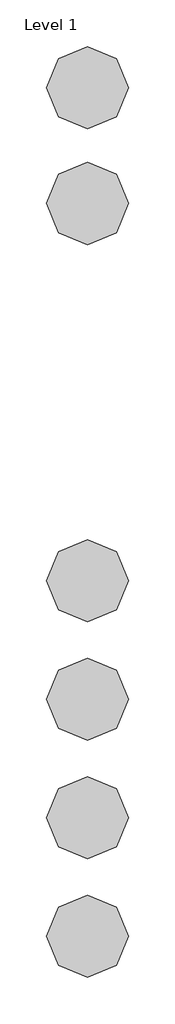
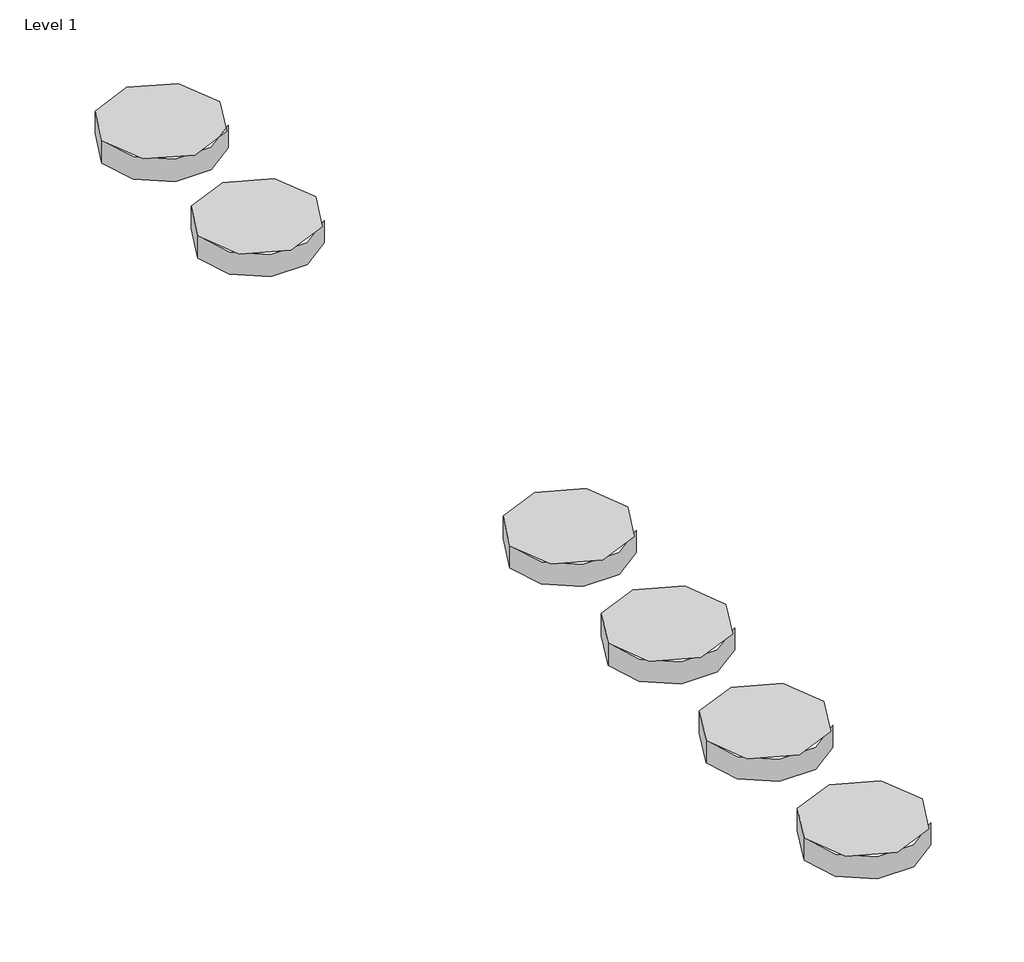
# One storey, incomplete: 6 proxies.
"""IFC4 building model written with IfcOpenShell, lengths in millimetres."""

from ifc_helpers import new_model, si_unit, origin, place, context, project, spatial, transform, mapped, element, save
from components import materialmodel_materialmodel_58669afb

model = new_model("IFC4")

# Units and contexts
model_context = context("Model", 3, world=origin())
ifc_project = project(units=[si_unit("LENGTHUNIT", "METRE", prefix="MILLI")], contexts=[model_context])

# Site, building, storey
site = spatial("IfcSite", under=ifc_project)
building = spatial("IfcBuilding", under=site)
storey = spatial("IfcBuildingStorey", under=building, Name="Level 1", Elevation=0.0)

# Proxies
placement = place(None, origin())
materialmodel_materialmodel_shape = materialmodel_materialmodel_58669afb(model_context)
element("IfcBuildingElementProxy", 1, Name="MaterialModel : MaterialModel", ObjectType="MaterialModel : MaterialModel", at=placement, inside=storey, context=model_context, shape_type="MappedRepresentation", body=[
    mapped(materialmodel_materialmodel_shape, transform((-8374.1084344, 5998.17791, 0.0), x_axis=(1.0, 0.0, 0.0), y_axis=(0.0, 1.0, 0.0), z_axis=(0.0, 0.0, 1.0))),
])
element("IfcBuildingElementProxy", 2, Name="MaterialModel : MaterialModel", ObjectType="MaterialModel : MaterialModel", at=placement, inside=storey, context=model_context, shape_type="MappedRepresentation", body=[
    mapped(materialmodel_materialmodel_shape, transform((-8374.1084344, 5857.2060987, 0.0), x_axis=(1.0, 0.0, 0.0), y_axis=(0.0, 1.0, 0.0), z_axis=(0.0, 0.0, 1.0))),
])
element("IfcBuildingElementProxy", 3, Name="MaterialModel : MaterialModel", ObjectType="MaterialModel : MaterialModel", at=placement, inside=storey, context=model_context, shape_type="MappedRepresentation", body=[
    mapped(materialmodel_materialmodel_shape, transform((-8374.1084344, 5398.17791, 0.0), x_axis=(1.0, 0.0, 0.0), y_axis=(0.0, 1.0, 0.0), z_axis=(0.0, 0.0, 1.0))),
])
element("IfcBuildingElementProxy", 4, Name="MaterialModel : MaterialModel", ObjectType="MaterialModel : MaterialModel", at=placement, inside=storey, context=model_context, shape_type="MappedRepresentation", body=[
    mapped(materialmodel_materialmodel_shape, transform((-8374.1084344, 5253.8727653, 0.0), x_axis=(1.0, 0.0, 0.0), y_axis=(0.0, 1.0, 0.0), z_axis=(0.0, 0.0, 1.0))),
])
element("IfcBuildingElementProxy", 5, Name="MaterialModel : MaterialModel", ObjectType="MaterialModel : MaterialModel", at=placement, inside=storey, context=model_context, shape_type="MappedRepresentation", body=[
    mapped(materialmodel_materialmodel_shape, transform((-8374.1084344, 4965.2624761, 0.0), x_axis=(1.0, 0.0, 0.0), y_axis=(0.0, 1.0, 0.0), z_axis=(0.0, 0.0, 1.0))),
])
element("IfcBuildingElementProxy", 6, Name="MaterialModel : MaterialModel", ObjectType="MaterialModel : MaterialModel", at=placement, inside=storey, context=model_context, shape_type="MappedRepresentation", body=[
    mapped(materialmodel_materialmodel_shape, transform((-8374.1084344, 5109.5676207, 0.0), x_axis=(1.0, 0.0, 0.0), y_axis=(0.0, 1.0, 0.0), z_axis=(0.0, 0.0, 1.0))),
])

save(model, "model.ifc")
